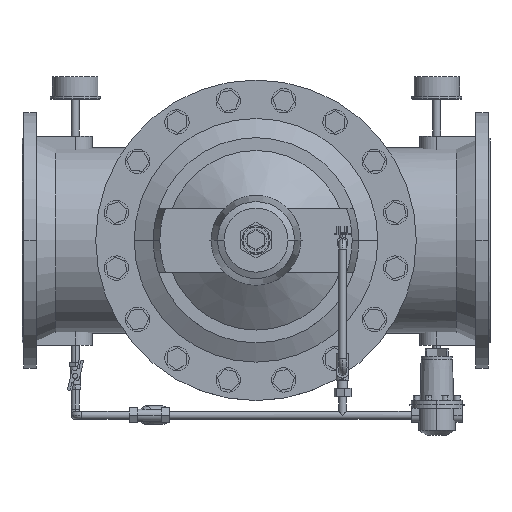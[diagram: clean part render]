
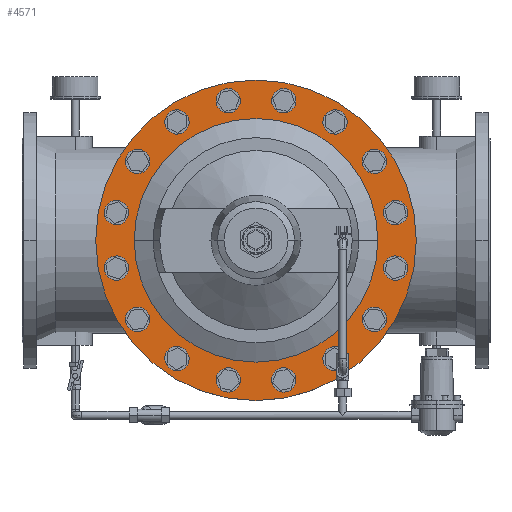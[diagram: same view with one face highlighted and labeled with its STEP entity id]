
A CAD part, top view. The second image highlights one B-rep face of the part: STEP entity #4571.
In plain terms, the highlighted planar face has unit normal (0, 0, 1).
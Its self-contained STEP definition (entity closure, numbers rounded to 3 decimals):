
#4571=ADVANCED_FACE('',(#8834),#8835,.F.);
#8834=FACE_OUTER_BOUND('',#14201,.T.);
#8835=PLANE('',#14202);
#14201=EDGE_LOOP('',(#21523,#21524));
#14202=AXIS2_PLACEMENT_3D('',#21525,#21526,#21527);
#21523=ORIENTED_EDGE('',*,*,#30593,.F.);
#21524=ORIENTED_EDGE('',*,*,#30143,.F.);
#21525=CARTESIAN_POINT('',(365.0,0.0,240.0));
#21526=DIRECTION('',(0.,0.0,-1.0));
#21527=DIRECTION('',(-1.0,0.0,0.));
#30143=EDGE_CURVE('',#35929,#35924,#35931,.T.);
#30593=EDGE_CURVE('',#35924,#35929,#36564,.T.);
#35924=VERTEX_POINT('',#43867);
#35929=VERTEX_POINT('',#43873);
#35931=CIRCLE('',#43876,250.0);
#36564=CIRCLE('',#44794,250.0);
#43867=CARTESIAN_POINT('',(115.0,0.0,240.0));
#43873=CARTESIAN_POINT('',(615.0,0.,240.0));
#43876=AXIS2_PLACEMENT_3D('',#50380,#50381,#50382);
#44794=AXIS2_PLACEMENT_3D('',#50837,#50838,#50839);
#50380=CARTESIAN_POINT('',(365.0,0.0,240.0));
#50381=DIRECTION('',(0.,0.0,-1.0));
#50382=DIRECTION('',(-1.0,0.0,0.));
#50837=CARTESIAN_POINT('',(365.0,0.0,240.0));
#50838=DIRECTION('',(0.,0.0,-1.0));
#50839=DIRECTION('',(-1.0,0.0,0.));
